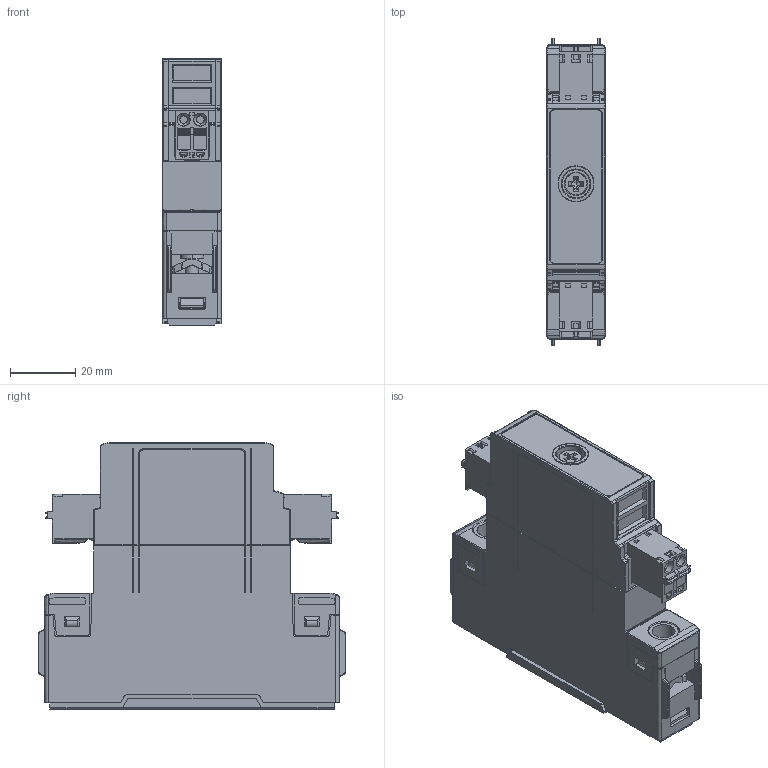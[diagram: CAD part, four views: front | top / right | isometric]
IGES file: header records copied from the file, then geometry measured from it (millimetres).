
Global section: file name: D:\RE DOCS 110324\Projects\0-Catalogue 3D-2D\RG\CGI1371-00.igs; native system: AutoCAD-18.2s (LMS Tech) (Microsoft Windows NT Version 5.2 (x64)); preprocessor: Autodesk IGES Translator Mechanical Desktop 2011 (Feb 18 2011) from Autodesk, Inc.; date: 20170822.102756; units: millimetre
Bounding box: 17.8 x 94 x 81.6 mm (x, y, z)
Surface area: 26517.9 mm2 (no closed solid volume)
Topology: 0 solids, 0 shells, 1359 faces, 8319 edges, 8293 vertices
Faces by surface type: bspline 1359
